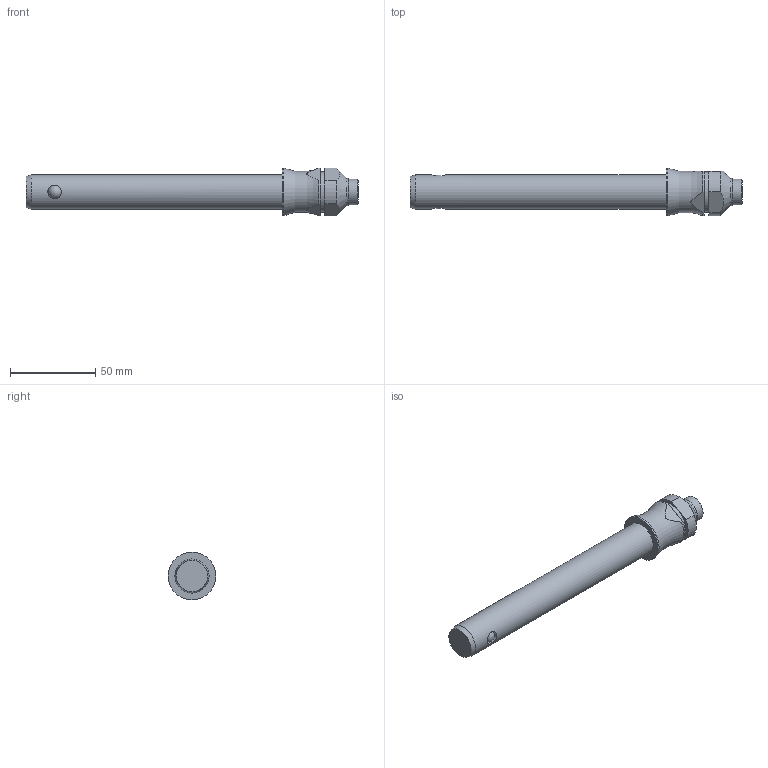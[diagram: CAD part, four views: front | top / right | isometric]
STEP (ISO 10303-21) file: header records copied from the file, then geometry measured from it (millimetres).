
FILE_DESCRIPTION( ( 'STEP AP203' ), '1' );
FILE_NAME( 'C:/Temp/Ganter_Step_05_03_2020/data/3_1/gn113_3/Stainless Steel-Ball lock pin GN 113.3-20-130 (activated).stp', '2020-03-12T08:19:07', ( 'License CC BY-ND 4.0' ), ( 'CADENAS' ), ' ', 'PARTsolutions', ' ' );
FILE_SCHEMA( ( 'CONFIG_CONTROL_DESIGN' ) );
Length unit declared in the file: millimetre
Products named in the file (1): _Stainless Steel-Ball lock pin GN 113.3-20-130 (activated)
Bounding box: 195.05 x 28 x 28 mm (x, y, z)
Volume: 66846.5 mm3; surface area: 14186.4 mm2
Topology: 1 solids, 1 shells, 31 faces, 74 edges, 46 vertices
Faces by surface type: cylinder 13, plane 11, cone 4, sphere 2, torus 1
Full cylindrical faces by diameter (mm): 8 x2, 15 x1, 16 x1, 20 x1, 24 x1, 28 x1
Entity records: 1054 total; most frequent: CARTESIAN_POINT 390, DIRECTION 134, ORIENTED_EDGE 104, AXIS2_PLACEMENT_3D 58, EDGE_CURVE 52, EDGE_LOOP 48, VERTEX_POINT 40, FACE_OUTER_BOUND 39
